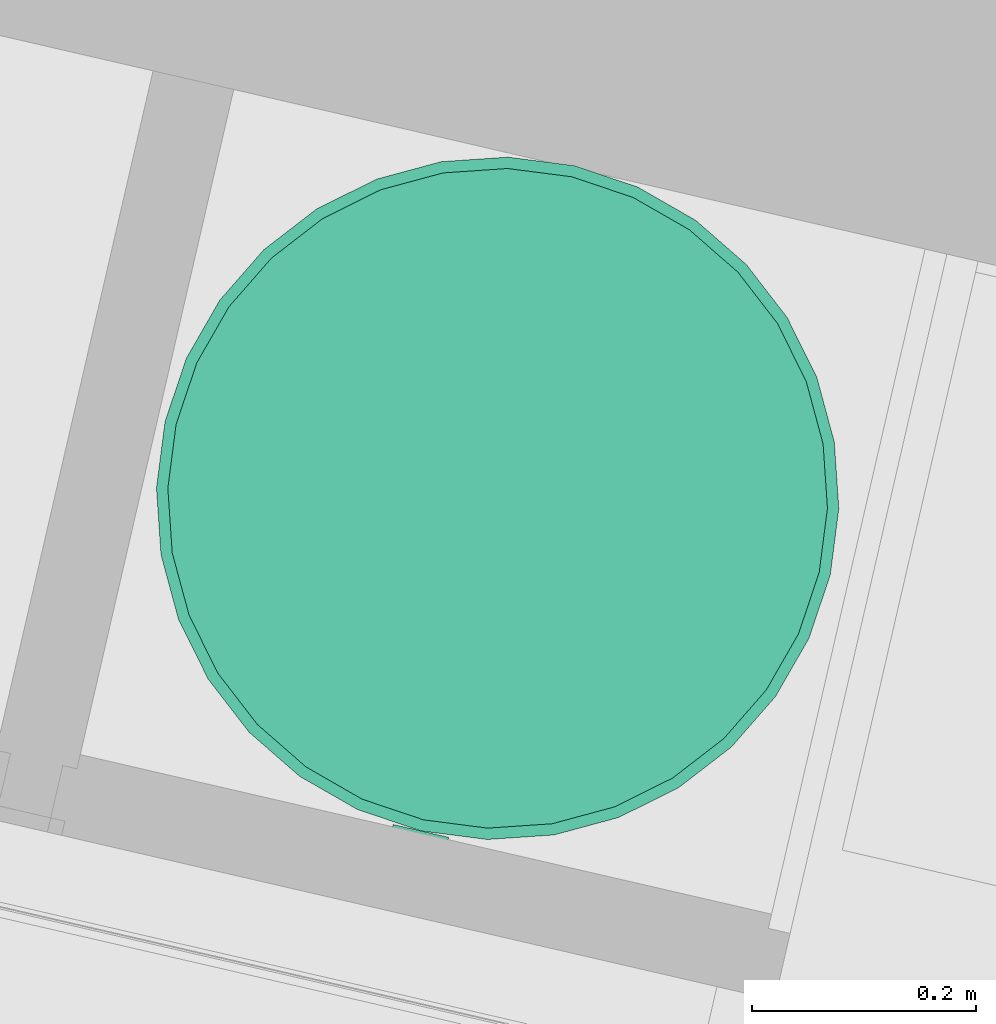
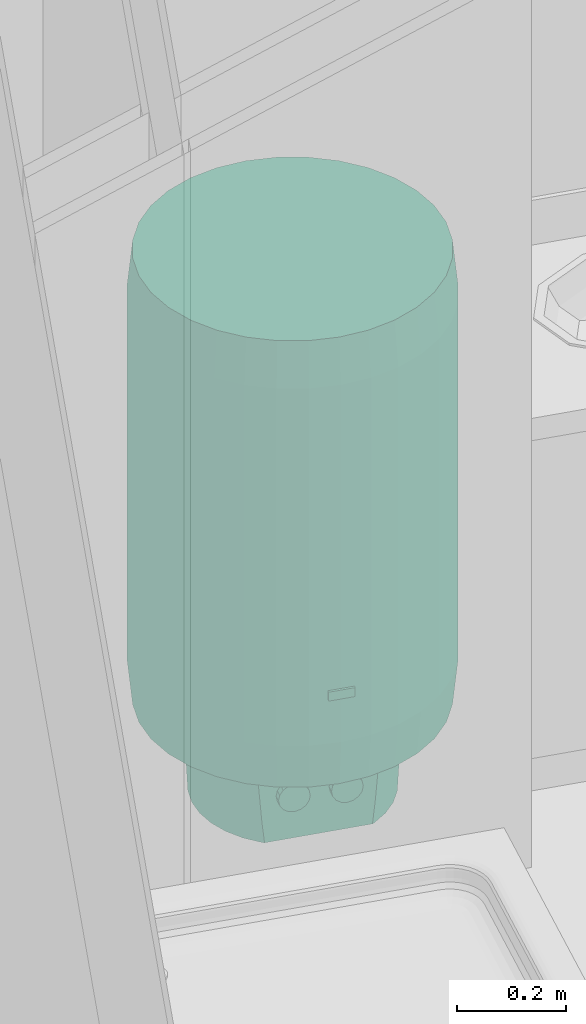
# One storey, part 80 of 90: 1 energy conversion device.
"""IFC2X3 building model written with IfcOpenShell, lengths in metres."""

import ifcopenshell
import ifcopenshell.guid

model = None  # the IFC model being written
_history = None  # IfcOwnerHistory: only IFC2X3 demands one
_inside = {}  # id of a spatial element -> (the spatial element, [elements in it])
_under = {}  # id of a project, library or spatial element -> (it, [spatial elements below it])
_declared = {}  # id of a project -> (the project, [libraries it declares])
_typed = {}  # id of a type object -> (the type object, [elements of that type])
_made_of = {}  # id of a material, layer set ... -> (it, [elements and type objects made of it])


def new_model(schema):
    """Start an empty IFC model of exactly this schema.

    Asked for "IFC4X3", IfcOpenShell would pick the latest addendum, in which some entities
    have other attributes; the version numbers below select the first issue.
    IFC2X3 requires an IfcOwnerHistory on every rooted entity: one is made here for all.
    """
    global model, _history
    if schema == "IFC4X3":
        model = ifcopenshell.file(schema_version=(4, 3, 0, 0))
    else:
        model = ifcopenshell.file(schema=schema)
    _inside.clear()
    _under.clear()
    _declared.clear()
    _typed.clear()
    _made_of.clear()
    _history = None
    if model.schema == "IFC2X3":
        org = make("IfcOrganization", Name="unknown")
        user = make(
            "IfcPersonAndOrganization",
            ThePerson=make("IfcPerson", FamilyName="unknown"),
            TheOrganization=org,
        )
        app = make(
            "IfcApplication",
            ApplicationDeveloper=org,
            Version="unknown",
            ApplicationFullName="unknown",
            ApplicationIdentifier="unknown",
        )
        _history = make(
            "IfcOwnerHistory",
            OwningUser=user,
            OwningApplication=app,
            ChangeAction="ADDED",
            CreationDate=0,
        )
    return model


def make(cls, **values):
    """One entity of the class cls with the attributes given. An attribute that is None is left unset."""
    return model.create_entity(
        cls, **{name: value for name, value in values.items() if value is not None}
    )


def entity(cls, *values):
    """Any entity or typed value of the class cls, its attributes in the order of the schema. None: left unset."""
    e = model.create_entity(cls)
    for i, value in enumerate(values):
        if value is not None:
            e[i] = value
    return e


def rooted(cls, **values):
    """An entity with a GlobalId (a new one), such as an element, a storey or a relation."""
    return make(cls, GlobalId=ifcopenshell.guid.new(), OwnerHistory=_history, **values)


def si_unit(unit_type, name, prefix=None):
    """IfcSIUnit, for example si_unit("LENGTHUNIT", "METRE", prefix="MILLI")."""
    return make("IfcSIUnit", UnitType=unit_type, Prefix=prefix, Name=name)


def converted_unit(unit_type, name, factor, base, dimensions=None, offset=None):
    """IfcConversionBasedUnit, such as the inch: factor (a typed value) times the base unit."""
    return make(
        "IfcConversionBasedUnit"
        if offset is None
        else "IfcConversionBasedUnitWithOffset",
        ConversionOffset=offset,
        Dimensions=None
        if dimensions is None
        else entity("IfcDimensionalExponents", *dimensions),
        UnitType=unit_type,
        Name=name,
        ConversionFactor=make(
            "IfcMeasureWithUnit", ValueComponent=factor, UnitComponent=base
        ),
    )


def derived_unit(unit_type, elements):
    """IfcDerivedUnit: a product of units, each with its exponent."""
    return make(
        "IfcDerivedUnit",
        Elements=[
            make("IfcDerivedUnitElement", Unit=unit, Exponent=power)
            for unit, power in elements
        ],
        UnitType=unit_type,
    )


def money_unit(currency):
    """IfcMonetaryUnit."""
    return make("IfcMonetaryUnit", Currency=currency)


def assignment(units):
    """IfcUnitAssignment: the units of a project."""
    return None if units is None else make("IfcUnitAssignment", Units=units)


def point(xyz):
    """IfcCartesianPoint."""
    return None if xyz is None else make("IfcCartesianPoint", Coordinates=xyz)


def direction(xyz):
    """IfcDirection."""
    return None if xyz is None else make("IfcDirection", DirectionRatios=xyz)


def frame(location, z_axis=None, x_axis=None):
    """IfcAxis2Placement3D, a coordinate frame: its origin and axes. An axis left out is left unset."""
    return make(
        "IfcAxis2Placement3D",
        Location=point(location),
        Axis=direction(z_axis),
        RefDirection=direction(x_axis),
    )


def origin_with_axes():
    """The frame at (0, 0, 0) with the z axis (0, 0, 1) and the x axis (1, 0, 0) written out."""
    return frame((0.0, 0.0, 0.0), z_axis=(0.0, 0.0, 1.0), x_axis=(1.0, 0.0, 0.0))


def place(relative_to, where):
    """IfcLocalPlacement: puts the frame where relative to a parent placement (None: the world)."""
    return make(
        "IfcLocalPlacement", PlacementRelTo=relative_to, RelativePlacement=where
    )


def context(
    kind, dimensions, precision=None, world=None, true_north=None, identifier=None
):
    """IfcGeometricRepresentationContext, for example the 3D "Model" context."""
    return make(
        "IfcGeometricRepresentationContext",
        ContextIdentifier=identifier,
        ContextType=kind,
        CoordinateSpaceDimension=dimensions,
        Precision=precision,
        WorldCoordinateSystem=world,
        TrueNorth=true_north,
    )


def subcontext(parent, identifier, kind, view, scale=None):
    """IfcGeometricRepresentationSubContext, for example "Body" below "Model"."""
    return make(
        "IfcGeometricRepresentationSubContext",
        ContextIdentifier=identifier,
        ContextType=kind,
        ParentContext=parent,
        TargetScale=scale,
        TargetView=view,
    )


def project(units=None, contexts=None):
    """IfcProject with its units and contexts."""
    return rooted(
        "IfcProject",
        Name="project",
        RepresentationContexts=contexts,
        UnitsInContext=assignment(units),
    )


def spatial(cls, under=None, at=None, **own):
    """A site, building, storey or space (cls), placed at a placement, below another one or the project."""
    s = rooted(cls, ObjectPlacement=at, **own)
    if under is not None:
        _under.setdefault(under.id(), (under, []))[1].append(s)
    return s


def faces_of(points, faces, orient=None, outer=None):
    """IfcFace entities. A face is a list of loops; a loop is a list of indices into points, from 0.

    orient and outer hold one flag for each loop. By default every Orientation is true, the
    first loop of a face is its IfcFaceOuterBound and the others are IfcFaceBound.
    """
    made = []
    for i, loops in enumerate(faces):
        bounds = []
        for j, loop in enumerate(loops):
            is_outer = j == 0 if outer is None else outer[i][j]
            bounds.append(
                make(
                    "IfcFaceOuterBound" if is_outer else "IfcFaceBound",
                    Bound=make("IfcPolyLoop", Polygon=[points[k] for k in loop]),
                    Orientation=True if orient is None else orient[i][j],
                )
            )
        made.append(make("IfcFace", Bounds=bounds))
    return made


def faceted_brep(points, faces, orient=None, outer=None, voids=None):
    """IfcFacetedBrep: a solid bounded by flat faces; with voids (closed shells), ...WithVoids."""
    shared = [point(p) for p in points]
    hull = make("IfcClosedShell", CfsFaces=faces_of(shared, faces, orient, outer))
    if voids is None:
        return make("IfcFacetedBrep", Outer=hull)
    return make(
        "IfcFacetedBrepWithVoids",
        Outer=hull,
        Voids=[
            make(cls, CfsFaces=faces_of(shared, fs, o, b)) for cls, fs, o, b in voids
        ],
    )


def shape(context_of_items, identifier, shape_type, items):
    """IfcShapeRepresentation: the items that make up one representation, for example the "Body"."""
    return make(
        "IfcShapeRepresentation",
        ContextOfItems=context_of_items,
        RepresentationIdentifier=identifier,
        RepresentationType=shape_type,
        Items=items,
    )


def source(mapping_origin, context_of_items, identifier, shape_type, items):
    """IfcRepresentationMap: a shape defined once, which mapped items show again and again."""
    return make(
        "IfcRepresentationMap",
        MappingOrigin=mapping_origin,
        MappedRepresentation=shape(context_of_items, identifier, shape_type, items),
    )


def transform(
    local_origin,
    x_axis=None,
    y_axis=None,
    z_axis=None,
    scale=None,
    scale2=None,
    scale3=None,
    uniform=True,
):
    """IfcCartesianTransformationOperator3D, or its non-uniform kind. x_axis, y_axis, z_axis: its Axis1, 2, 3."""
    if uniform:
        return make(
            "IfcCartesianTransformationOperator3D",
            Axis1=direction(x_axis),
            Axis2=direction(y_axis),
            LocalOrigin=point(local_origin),
            Scale=scale,
            Axis3=direction(z_axis),
        )
    return make(
        "IfcCartesianTransformationOperator3DnonUniform",
        Axis1=direction(x_axis),
        Axis2=direction(y_axis),
        LocalOrigin=point(local_origin),
        Scale=scale,
        Axis3=direction(z_axis),
        Scale2=scale2,
        Scale3=scale3,
    )


def mapped(mapping_source, mapping_target):
    """IfcMappedItem: shows the shape of a source again, moved by a transform."""
    return make(
        "IfcMappedItem", MappingSource=mapping_source, MappingTarget=mapping_target
    )


def made_of(thing, what):
    """Note that an element or type object is made of a material, layer set ...; save() writes the relation."""
    if what is not None:
        _made_of.setdefault(what.id(), (what, []))[1].append(thing)
    return thing


def type_object(cls, material=None, **own):
    """A type object (cls), such as IfcWallType, which elements share."""
    return made_of(rooted(cls, **own), material)


def element(
    cls,
    number,
    at=None,
    inside=None,
    cuts=None,
    type_object=None,
    material=None,
    context=None,
    identifier="Body",
    shape_type=None,
    held_by="IfcProductDefinitionShape",
    body=None,
    shapes=None,
    **own,
):
    """One element of the class cls, such as IfcWall. Its Tag is "e" and its number.

    at: its placement. inside: the storey or other place that contains it. cuts: it is an
    opening in that element (IfcRelVoidsElement). A single representation is given by context,
    identifier, shape_type and body (its items); several are given by shapes. held_by: the class
    of the entity that holds the representations. save() writes the other relations.
    """
    e = rooted(cls, Tag="e%d" % number, ObjectPlacement=at, **own)
    if body is not None:
        shapes = [shape(context, identifier, shape_type, body)]
    if shapes is not None:
        e.Representation = make(held_by, Representations=shapes)
    if inside is not None:
        _inside.setdefault(inside.id(), (inside, []))[1].append(e)
    if cuts is not None:
        rooted(
            "IfcRelVoidsElement", RelatingBuildingElement=cuts, RelatedOpeningElement=e
        )
    if type_object is not None:
        _typed.setdefault(type_object.id(), (type_object, []))[1].append(e)
    return made_of(e, material)


def aggregate(whole, parts):
    """IfcRelAggregates: a whole, such as a stair, and the parts it consists of."""
    return rooted("IfcRelAggregates", RelatingObject=whole, RelatedObjects=parts)


def save(model, path):
    """Write the relations noted so far, then the file.

    IfcRelAggregates (storeys below a building ...), IfcRelContainedInSpatialStructure (elements
    in a storey), IfcRelDefinesByType, IfcRelAssociatesMaterial and IfcRelDeclares: one each for
    every whole, place, type object, material and project.
    """
    for whole, parts in _under.values():
        aggregate(whole, parts)
    for where, things in _inside.values():
        rooted(
            "IfcRelContainedInSpatialStructure",
            RelatedElements=things,
            RelatingStructure=where,
        )
    for kind, things in _typed.values():
        rooted("IfcRelDefinesByType", RelatedObjects=things, RelatingType=kind)
    for what, things in _made_of.values():
        rooted("IfcRelAssociatesMaterial", RelatedObjects=things, RelatingMaterial=what)
    for by, libraries in _declared.values():
        rooted("IfcRelDeclares", RelatingContext=by, RelatedDefinitions=libraries)
    model.write(path)


model = new_model("IFC2X3")

# Units and contexts
model_context = context("Model", 3, precision=1e-05, world=origin_with_axes(), true_north=direction((0.0, 1.0)))
body_context = subcontext(model_context, "Body", "Model", "MODEL_VIEW")
ifc_project = project(units=[si_unit("LENGTHUNIT", "METRE"), si_unit("AREAUNIT", "SQUARE_METRE"), si_unit("VOLUMEUNIT", "CUBIC_METRE"), converted_unit("PLANEANGLEUNIT", "DEGREE", entity("IfcPlaneAngleMeasure", 0.0174532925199), si_unit("PLANEANGLEUNIT", "RADIAN"), dimensions=[0, 0, 0, 0, 0, 0, 0]), si_unit("SOLIDANGLEUNIT", "STERADIAN"), money_unit("EUR"), converted_unit("TIMEUNIT", "Year", entity("IfcTimeMeasure", 31556926.0), si_unit("TIMEUNIT", "SECOND"), dimensions=[0, 0, 1, 0, 0, 0, 0]), si_unit("MASSUNIT", "GRAM", prefix="KILO"), si_unit("THERMODYNAMICTEMPERATUREUNIT", "DEGREE_CELSIUS"), si_unit("LUMINOUSINTENSITYUNIT", "LUMEN"), si_unit("ENERGYUNIT", "JOULE", prefix="MEGA"), derived_unit("THERMALCONDUCTANCEUNIT", [(si_unit("POWERUNIT", "WATT"), 1), (si_unit("LENGTHUNIT", "METRE"), -1), (si_unit("THERMODYNAMICTEMPERATUREUNIT", "KELVIN"), -1)]), derived_unit("SPECIFICHEATCAPACITYUNIT", [(si_unit("ENERGYUNIT", "JOULE"), 1), (si_unit("MASSUNIT", "GRAM", prefix="KILO"), -1), (si_unit("THERMODYNAMICTEMPERATUREUNIT", "KELVIN"), -1)]), derived_unit("MASSDENSITYUNIT", [(si_unit("MASSUNIT", "GRAM", prefix="KILO"), 1), (si_unit("VOLUMEUNIT", "CUBIC_METRE"), -1)])], contexts=[model_context])

# Site, building, storey
site_placement = place(None, origin_with_axes())
site = spatial("IfcSite", under=ifc_project, at=site_placement, Name="Site", CompositionType="ELEMENT")
building_placement = place(site_placement, origin_with_axes())
building = spatial("IfcBuilding", under=site, at=building_placement, Name="Bâtiment", CompositionType="ELEMENT")
storey_placement = place(building_placement, frame((0.0, 0.0, 2.72), z_axis=(0.0, 0.0, 1.0), x_axis=(1.0, 0.0, 0.0)))
storey = spatial("IfcBuildingStorey", under=building, at=storey_placement, Name="R+1", CompositionType="ELEMENT", Elevation=2.72)

# Energy conversion device
heat_exchanger_type = type_object("IfcHeatExchangerType", Name="Chauffe-eau électrique 23", PredefinedType="SHELLANDTUBE")
shared_shape = source(origin_with_axes(), body_context, "Body", "Brep", [
    faceted_brep([(-0.0254166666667, -0.310083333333, 0.4), (-0.0254166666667, -0.305, 0.4), (0.0254166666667, -0.305, 0.4), (0.0254166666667, -0.310083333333, 0.4), (-0.0254166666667, -0.310083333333, 0.42), (-0.0254166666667, -0.305, 0.42), (0.0254166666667, -0.305, 0.42), (0.0254166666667, -0.310083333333, 0.42)], [[[0, 1, 2, 3]], [[0, 4, 5, 1]], [[1, 5, 6, 2]], [[2, 6, 7, 3]], [[3, 7, 4, 0]], [[7, 6, 5, 4]]]),
    faceted_brep([(0.0226550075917, -0.162666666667, 0.0883281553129), (0.0203333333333, -0.162666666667, 0.1), (0.0226550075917, -0.162666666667, 0.111671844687), (0.0292665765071, -0.162666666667, 0.121566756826), (0.0391614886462, -0.162666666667, 0.128178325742), (0.0508333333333, -0.162666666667, 0.1305), (0.0625051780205, -0.162666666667, 0.128178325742), (0.0724000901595, -0.162666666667, 0.121566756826), (0.0790116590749, -0.162666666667, 0.111671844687), (0.0813333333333, -0.162666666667, 0.1), (0.0790116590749, -0.162666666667, 0.0883281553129), (0.0724000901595, -0.162666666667, 0.0784332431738), (0.0625051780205, -0.162666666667, 0.0718216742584), (0.0508333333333, -0.162666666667, 0.0695), (0.0391614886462, -0.162666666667, 0.0718216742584), (0.0292665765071, -0.162666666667, 0.0784332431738), (0.0226550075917, -0.177916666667, 0.0883281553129), (0.0203333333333, -0.177916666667, 0.1), (0.0226550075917, -0.177916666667, 0.111671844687), (0.0292665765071, -0.177916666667, 0.121566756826), (0.0391614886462, -0.177916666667, 0.128178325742), (0.0508333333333, -0.177916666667, 0.1305), (0.0625051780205, -0.177916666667, 0.128178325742), (0.0724000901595, -0.177916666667, 0.121566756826), (0.0790116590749, -0.177916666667, 0.111671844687), (0.0813333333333, -0.177916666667, 0.1), (0.0790116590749, -0.177916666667, 0.0883281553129), (0.0724000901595, -0.177916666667, 0.0784332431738), (0.0625051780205, -0.177916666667, 0.0718216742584), (0.0508333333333, -0.177916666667, 0.0695), (0.0391614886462, -0.177916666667, 0.0718216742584), (0.0292665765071, -0.177916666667, 0.0784332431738)], [[[0, 1, 2, 3, 4, 5, 6, 7, 8, 9, 10, 11, 12, 13, 14, 15]], [[0, 16, 17, 1]], [[1, 17, 18, 2]], [[2, 18, 19, 3]], [[3, 19, 20, 4]], [[4, 20, 21, 5]], [[5, 21, 22, 6]], [[6, 22, 23, 7]], [[7, 23, 24, 8]], [[8, 24, 25, 9]], [[9, 25, 26, 10]], [[10, 26, 27, 11]], [[11, 27, 28, 12]], [[12, 28, 29, 13]], [[13, 29, 30, 14]], [[14, 30, 31, 15]], [[15, 31, 16, 0]], [[16, 31, 30, 29, 28, 27, 26, 25, 24, 23, 22, 21, 20, 19, 18, 17]]]),
    faceted_brep([(-0.0790116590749, -0.162666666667, 0.0883281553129), (-0.0813333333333, -0.162666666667, 0.1), (-0.0790116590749, -0.162666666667, 0.111671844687), (-0.0724000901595, -0.162666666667, 0.121566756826), (-0.0625051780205, -0.162666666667, 0.128178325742), (-0.0508333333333, -0.162666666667, 0.1305), (-0.0391614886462, -0.162666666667, 0.128178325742), (-0.0292665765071, -0.162666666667, 0.121566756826), (-0.0226550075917, -0.162666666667, 0.111671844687), (-0.0203333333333, -0.162666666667, 0.1), (-0.0226550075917, -0.162666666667, 0.0883281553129), (-0.0292665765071, -0.162666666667, 0.0784332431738), (-0.0391614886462, -0.162666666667, 0.0718216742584), (-0.0508333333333, -0.162666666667, 0.0695), (-0.0625051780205, -0.162666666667, 0.0718216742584), (-0.0724000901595, -0.162666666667, 0.0784332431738), (-0.0790116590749, -0.177916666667, 0.0883281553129), (-0.0813333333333, -0.177916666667, 0.1), (-0.0790116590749, -0.177916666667, 0.111671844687), (-0.0724000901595, -0.177916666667, 0.121566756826), (-0.0625051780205, -0.177916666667, 0.128178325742), (-0.0508333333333, -0.177916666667, 0.1305), (-0.0391614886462, -0.177916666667, 0.128178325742), (-0.0292665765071, -0.177916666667, 0.121566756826), (-0.0226550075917, -0.177916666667, 0.111671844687), (-0.0203333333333, -0.177916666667, 0.1), (-0.0226550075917, -0.177916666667, 0.0883281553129), (-0.0292665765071, -0.177916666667, 0.0784332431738), (-0.0391614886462, -0.177916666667, 0.0718216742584), (-0.0508333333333, -0.177916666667, 0.0695), (-0.0625051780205, -0.177916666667, 0.0718216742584), (-0.0724000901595, -0.177916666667, 0.0784332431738)], [[[0, 1, 2, 3, 4, 5, 6, 7, 8, 9, 10, 11, 12, 13, 14, 15]], [[0, 16, 17, 1]], [[1, 17, 18, 2]], [[2, 18, 19, 3]], [[3, 19, 20, 4]], [[4, 20, 21, 5]], [[5, 21, 22, 6]], [[6, 22, 23, 7]], [[7, 23, 24, 8]], [[8, 24, 25, 9]], [[9, 25, 26, 10]], [[10, 26, 27, 11]], [[11, 27, 28, 12]], [[12, 28, 29, 13]], [[13, 29, 30, 14]], [[14, 30, 31, 15]], [[15, 31, 16, 0]], [[16, 31, 30, 29, 28, 27, 26, 25, 24, 23, 22, 21, 20, 19, 18, 17]]]),
    faceted_brep([(-0.189455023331, -0.0376849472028, 0.0), (-0.199426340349, -0.0396683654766, 0.2), (-0.203333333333, 0.0, 0.2), (-0.193166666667, 0.0, 0.0), (-0.178462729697, -0.0739216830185, 0.0), (-0.187855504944, -0.0778122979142, 0.2), (-0.169065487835, -0.112965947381, 0.2), (-0.143778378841, -0.143778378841, 0.2), (-0.120762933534, -0.162666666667, 0.2), (0.120762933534, -0.162666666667, 0.2), (0.143778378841, -0.143778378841, 0.2), (0.169065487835, -0.112965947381, 0.2), (0.187855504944, -0.0778122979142, 0.2), (0.199426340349, -0.0396683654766, 0.2), (0.203333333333, 0.0, 0.2), (0.199426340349, 0.0396683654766, 0.2), (0.187855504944, 0.0778122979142, 0.2), (0.169065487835, 0.112965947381, 0.2), (0.143778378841, 0.143778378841, 0.2), (0.112965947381, 0.169065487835, 0.2), (0.0778122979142, 0.187855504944, 0.2), (0.0396683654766, 0.199426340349, 0.2), (0.0, 0.203333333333, 0.2), (-0.0396683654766, 0.199426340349, 0.2), (-0.0778122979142, 0.187855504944, 0.2), (-0.112965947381, 0.169065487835, 0.2), (-0.143778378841, 0.143778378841, 0.2), (-0.169065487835, 0.112965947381, 0.2), (-0.187855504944, 0.0778122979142, 0.2), (-0.199426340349, 0.0396683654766, 0.2), (-0.189455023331, 0.0376849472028, 0.0), (-0.178462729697, 0.0739216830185, 0.0), (-0.160612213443, 0.107317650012, 0.0), (-0.136589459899, 0.136589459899, 0.0), (-0.107317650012, 0.160612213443, 0.0), (-0.0739216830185, 0.178462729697, 0.0), (-0.0376849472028, 0.189455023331, 0.0), (0.0, 0.193166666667, 0.0), (0.0376849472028, 0.189455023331, 0.0), (0.0739216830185, 0.178462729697, 0.0), (0.107317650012, 0.160612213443, 0.0), (0.136589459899, 0.136589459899, 0.0), (0.160612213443, 0.107317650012, 0.0), (0.178462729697, 0.0739216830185, 0.0), (0.189455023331, 0.0376849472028, 0.0), (0.193166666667, 0.0, 0.0), (0.189455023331, -0.0376849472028, 0.0), (0.178462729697, -0.0739216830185, 0.0), (0.160612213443, -0.107317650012, 0.0), (0.136589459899, -0.136589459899, 0.0), (0.107317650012, -0.160612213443, 0.0), (0.103474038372, -0.162666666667, 0.0), (-0.103474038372, -0.162666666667, 0.0), (-0.107317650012, -0.160612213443, 0.0), (-0.136589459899, -0.136589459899, 0.0), (-0.160612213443, -0.107317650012, 0.0), (-0.108690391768, -0.162666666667, 0.0486072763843), (0.108690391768, -0.162666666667, 0.0486072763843)], [[[0, 1, 2, 3]], [[4, 5, 1, 0]], [[1, 5, 6, 7, 8, 9, 10, 11, 12, 13, 14, 15, 16, 17, 18, 19, 20, 21, 22, 23, 24, 25, 26, 27, 28, 29, 2]], [[3, 2, 29, 30]], [[0, 3, 30, 31, 32, 33, 34, 35, 36, 37, 38, 39, 40, 41, 42, 43, 44, 45, 46, 47, 48, 49, 50, 51, 52, 53, 54, 55, 4]], [[55, 6, 5, 4]], [[54, 7, 6, 55]], [[53, 56, 8, 7, 54]], [[51, 57, 9, 8, 56, 52]], [[49, 10, 9, 57, 50]], [[48, 11, 10, 49]], [[47, 12, 11, 48]], [[46, 13, 12, 47]], [[45, 14, 13, 46]], [[44, 15, 14, 45]], [[43, 16, 15, 44]], [[42, 17, 16, 43]], [[41, 18, 17, 42]], [[40, 19, 18, 41]], [[39, 20, 19, 40]], [[38, 21, 20, 39]], [[37, 22, 21, 38]], [[36, 23, 22, 37]], [[35, 24, 23, 36]], [[34, 25, 24, 35]], [[33, 26, 25, 34]], [[32, 27, 26, 33]], [[31, 28, 27, 32]], [[30, 29, 28, 31]], [[50, 57, 51]], [[52, 56, 53]]]),
    faceted_brep([(-0.289168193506, -0.0575191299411, 0.2), (-0.299139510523, -0.0595025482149, 0.3), (-0.305, 0.0, 0.3), (-0.294833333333, 0.0, 0.2), (-0.272390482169, -0.112827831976, 0.2), (-0.281783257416, -0.116718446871, 0.3), (-0.253598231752, -0.169448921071, 0.3), (-0.215667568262, -0.215667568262, 0.3), (-0.169448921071, -0.253598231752, 0.3), (-0.116718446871, -0.281783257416, 0.3), (-0.0595025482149, -0.299139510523, 0.3), (0.0, -0.305, 0.3), (0.0595025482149, -0.299139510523, 0.3), (0.116718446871, -0.281783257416, 0.3), (0.169448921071, -0.253598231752, 0.3), (0.215667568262, -0.215667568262, 0.3), (0.253598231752, -0.169448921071, 0.3), (0.281783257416, -0.116718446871, 0.3), (0.299139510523, -0.0595025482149, 0.3), (0.305, 0.0, 0.3), (0.299139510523, 0.0595025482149, 0.3), (0.281783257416, 0.116718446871, 0.3), (0.253598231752, 0.169448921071, 0.3), (0.215667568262, 0.215667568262, 0.3), (0.169448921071, 0.253598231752, 0.3), (0.116718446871, 0.281783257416, 0.3), (0.0595025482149, 0.299139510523, 0.3), (0.0, 0.305, 0.3), (-0.0595025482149, 0.299139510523, 0.3), (-0.116718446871, 0.281783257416, 0.3), (-0.169448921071, 0.253598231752, 0.3), (-0.215667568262, 0.215667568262, 0.3), (-0.253598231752, 0.169448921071, 0.3), (-0.281783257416, 0.116718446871, 0.3), (-0.299139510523, 0.0595025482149, 0.3), (-0.289168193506, 0.0575191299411, 0.2), (-0.272390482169, 0.112827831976, 0.2), (-0.245144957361, 0.163800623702, 0.2), (-0.20847864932, 0.20847864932, 0.2), (-0.163800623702, 0.245144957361, 0.2), (-0.112827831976, 0.272390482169, 0.2), (-0.0575191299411, 0.289168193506, 0.2), (0.0, 0.294833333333, 0.2), (0.0575191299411, 0.289168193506, 0.2), (0.112827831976, 0.272390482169, 0.2), (0.163800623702, 0.245144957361, 0.2), (0.20847864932, 0.20847864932, 0.2), (0.245144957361, 0.163800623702, 0.2), (0.272390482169, 0.112827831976, 0.2), (0.289168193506, 0.0575191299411, 0.2), (0.294833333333, 0.0, 0.2), (0.289168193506, -0.0575191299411, 0.2), (0.272390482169, -0.112827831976, 0.2), (0.245144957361, -0.163800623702, 0.2), (0.20847864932, -0.20847864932, 0.2), (0.163800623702, -0.245144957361, 0.2), (0.112827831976, -0.272390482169, 0.2), (0.0575191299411, -0.289168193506, 0.2), (0.0, -0.294833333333, 0.2), (-0.0575191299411, -0.289168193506, 0.2), (-0.112827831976, -0.272390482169, 0.2), (-0.163800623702, -0.245144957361, 0.2), (-0.20847864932, -0.20847864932, 0.2), (-0.245144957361, -0.163800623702, 0.2)], [[[0, 1, 2, 3]], [[4, 5, 1, 0]], [[1, 5, 6, 7, 8, 9, 10, 11, 12, 13, 14, 15, 16, 17, 18, 19, 20, 21, 22, 23, 24, 25, 26, 27, 28, 29, 30, 31, 32, 33, 34, 2]], [[3, 2, 34, 35]], [[0, 3, 35, 36, 37, 38, 39, 40, 41, 42, 43, 44, 45, 46, 47, 48, 49, 50, 51, 52, 53, 54, 55, 56, 57, 58, 59, 60, 61, 62, 63, 4]], [[63, 6, 5, 4]], [[62, 7, 6, 63]], [[61, 8, 7, 62]], [[60, 9, 8, 61]], [[59, 10, 9, 60]], [[58, 11, 10, 59]], [[57, 12, 11, 58]], [[56, 13, 12, 57]], [[55, 14, 13, 56]], [[54, 15, 14, 55]], [[53, 16, 15, 54]], [[52, 17, 16, 53]], [[51, 18, 17, 52]], [[50, 19, 18, 51]], [[49, 20, 19, 50]], [[48, 21, 20, 49]], [[47, 22, 21, 48]], [[46, 23, 22, 47]], [[45, 24, 23, 46]], [[44, 25, 24, 45]], [[43, 26, 25, 44]], [[42, 27, 26, 43]], [[41, 28, 27, 42]], [[40, 29, 28, 41]], [[39, 30, 29, 40]], [[38, 31, 30, 39]], [[37, 32, 31, 38]], [[36, 33, 32, 37]], [[35, 34, 33, 36]]]),
    faceted_brep([(-0.299139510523, -0.0595025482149, 0.3), (-0.305, 0.0, 0.3), (-0.299139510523, 0.0595025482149, 0.3), (-0.281783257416, 0.116718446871, 0.3), (-0.253598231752, 0.169448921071, 0.3), (-0.215667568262, 0.215667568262, 0.3), (-0.169448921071, 0.253598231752, 0.3), (-0.116718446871, 0.281783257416, 0.3), (-0.0595025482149, 0.299139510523, 0.3), (0.0, 0.305, 0.3), (0.0595025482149, 0.299139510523, 0.3), (0.116718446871, 0.281783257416, 0.3), (0.169448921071, 0.253598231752, 0.3), (0.215667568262, 0.215667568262, 0.3), (0.253598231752, 0.169448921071, 0.3), (0.281783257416, 0.116718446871, 0.3), (0.299139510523, 0.0595025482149, 0.3), (0.305, 0.0, 0.3), (0.299139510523, -0.0595025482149, 0.3), (0.281783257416, -0.116718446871, 0.3), (0.253598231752, -0.169448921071, 0.3), (0.215667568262, -0.215667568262, 0.3), (0.169448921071, -0.253598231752, 0.3), (0.116718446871, -0.281783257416, 0.3), (0.0595025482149, -0.299139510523, 0.3), (0.0, -0.305, 0.3), (-0.0595025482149, -0.299139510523, 0.3), (-0.116718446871, -0.281783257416, 0.3), (-0.169448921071, -0.253598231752, 0.3), (-0.215667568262, -0.215667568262, 0.3), (-0.253598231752, -0.169448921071, 0.3), (-0.281783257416, -0.116718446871, 0.3), (-0.299139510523, -0.0595025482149, 1.1), (-0.305, 0.0, 1.1), (-0.299139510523, 0.0595025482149, 1.1), (-0.281783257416, 0.116718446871, 1.1), (-0.253598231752, 0.169448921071, 1.1), (-0.215667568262, 0.215667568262, 1.1), (-0.169448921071, 0.253598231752, 1.1), (-0.116718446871, 0.281783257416, 1.1), (-0.0595025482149, 0.299139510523, 1.1), (0.0, 0.305, 1.1), (0.0595025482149, 0.299139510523, 1.1), (0.116718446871, 0.281783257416, 1.1), (0.169448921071, 0.253598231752, 1.1), (0.215667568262, 0.215667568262, 1.1), (0.253598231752, 0.169448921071, 1.1), (0.281783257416, 0.116718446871, 1.1), (0.299139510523, 0.0595025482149, 1.1), (0.305, 0.0, 1.1), (0.299139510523, -0.0595025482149, 1.1), (0.281783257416, -0.116718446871, 1.1), (0.253598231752, -0.169448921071, 1.1), (0.215667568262, -0.215667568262, 1.1), (0.169448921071, -0.253598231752, 1.1), (0.116718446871, -0.281783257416, 1.1), (0.0595025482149, -0.299139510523, 1.1), (0.0, -0.305, 1.1), (-0.0595025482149, -0.299139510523, 1.1), (-0.116718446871, -0.281783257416, 1.1), (-0.169448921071, -0.253598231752, 1.1), (-0.215667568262, -0.215667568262, 1.1), (-0.253598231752, -0.169448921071, 1.1), (-0.281783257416, -0.116718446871, 1.1)], [[[0, 1, 2, 3, 4, 5, 6, 7, 8, 9, 10, 11, 12, 13, 14, 15, 16, 17, 18, 19, 20, 21, 22, 23, 24, 25, 26, 27, 28, 29, 30, 31]], [[0, 32, 33, 1]], [[1, 33, 34, 2]], [[2, 34, 35, 3]], [[3, 35, 36, 4]], [[4, 36, 37, 5]], [[5, 37, 38, 6]], [[6, 38, 39, 7]], [[7, 39, 40, 8]], [[8, 40, 41, 9]], [[9, 41, 42, 10]], [[10, 42, 43, 11]], [[11, 43, 44, 12]], [[12, 44, 45, 13]], [[13, 45, 46, 14]], [[14, 46, 47, 15]], [[15, 47, 48, 16]], [[16, 48, 49, 17]], [[17, 49, 50, 18]], [[18, 50, 51, 19]], [[19, 51, 52, 20]], [[20, 52, 53, 21]], [[21, 53, 54, 22]], [[22, 54, 55, 23]], [[23, 55, 56, 24]], [[24, 56, 57, 25]], [[25, 57, 58, 26]], [[26, 58, 59, 27]], [[27, 59, 60, 28]], [[28, 60, 61, 29]], [[29, 61, 62, 30]], [[30, 62, 63, 31]], [[31, 63, 32, 0]], [[32, 63, 62, 61, 60, 59, 58, 57, 56, 55, 54, 53, 52, 51, 50, 49, 48, 47, 46, 45, 44, 43, 42, 41, 40, 39, 38, 37, 36, 35, 34, 33]]]),
    faceted_brep([(-0.299139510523, -0.0595025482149, 1.1), (-0.289168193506, -0.0575191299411, 1.2), (-0.294833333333, 0.0, 1.2), (-0.305, 0.0, 1.1), (-0.281783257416, -0.116718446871, 1.1), (-0.272390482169, -0.112827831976, 1.2), (-0.245144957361, -0.163800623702, 1.2), (-0.20847864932, -0.20847864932, 1.2), (-0.163800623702, -0.245144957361, 1.2), (-0.112827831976, -0.272390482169, 1.2), (-0.0575191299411, -0.289168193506, 1.2), (0.0, -0.294833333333, 1.2), (0.0575191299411, -0.289168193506, 1.2), (0.112827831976, -0.272390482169, 1.2), (0.163800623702, -0.245144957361, 1.2), (0.20847864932, -0.20847864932, 1.2), (0.245144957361, -0.163800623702, 1.2), (0.272390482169, -0.112827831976, 1.2), (0.289168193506, -0.0575191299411, 1.2), (0.294833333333, 0.0, 1.2), (0.289168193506, 0.0575191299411, 1.2), (0.272390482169, 0.112827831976, 1.2), (0.245144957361, 0.163800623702, 1.2), (0.20847864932, 0.20847864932, 1.2), (0.163800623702, 0.245144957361, 1.2), (0.112827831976, 0.272390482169, 1.2), (0.0575191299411, 0.289168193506, 1.2), (0.0, 0.294833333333, 1.2), (-0.0575191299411, 0.289168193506, 1.2), (-0.112827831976, 0.272390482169, 1.2), (-0.163800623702, 0.245144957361, 1.2), (-0.20847864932, 0.20847864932, 1.2), (-0.245144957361, 0.163800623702, 1.2), (-0.272390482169, 0.112827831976, 1.2), (-0.289168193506, 0.0575191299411, 1.2), (-0.299139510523, 0.0595025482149, 1.1), (-0.281783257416, 0.116718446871, 1.1), (-0.253598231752, 0.169448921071, 1.1), (-0.215667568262, 0.215667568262, 1.1), (-0.169448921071, 0.253598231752, 1.1), (-0.116718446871, 0.281783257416, 1.1), (-0.0595025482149, 0.299139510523, 1.1), (0.0, 0.305, 1.1), (0.0595025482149, 0.299139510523, 1.1), (0.116718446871, 0.281783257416, 1.1), (0.169448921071, 0.253598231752, 1.1), (0.215667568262, 0.215667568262, 1.1), (0.253598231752, 0.169448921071, 1.1), (0.281783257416, 0.116718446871, 1.1), (0.299139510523, 0.0595025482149, 1.1), (0.305, 0.0, 1.1), (0.299139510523, -0.0595025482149, 1.1), (0.281783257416, -0.116718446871, 1.1), (0.253598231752, -0.169448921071, 1.1), (0.215667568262, -0.215667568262, 1.1), (0.169448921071, -0.253598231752, 1.1), (0.116718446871, -0.281783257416, 1.1), (0.0595025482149, -0.299139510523, 1.1), (0.0, -0.305, 1.1), (-0.0595025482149, -0.299139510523, 1.1), (-0.116718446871, -0.281783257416, 1.1), (-0.169448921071, -0.253598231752, 1.1), (-0.215667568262, -0.215667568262, 1.1), (-0.253598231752, -0.169448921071, 1.1)], [[[0, 1, 2, 3]], [[4, 5, 1, 0]], [[1, 5, 6, 7, 8, 9, 10, 11, 12, 13, 14, 15, 16, 17, 18, 19, 20, 21, 22, 23, 24, 25, 26, 27, 28, 29, 30, 31, 32, 33, 34, 2]], [[3, 2, 34, 35]], [[0, 3, 35, 36, 37, 38, 39, 40, 41, 42, 43, 44, 45, 46, 47, 48, 49, 50, 51, 52, 53, 54, 55, 56, 57, 58, 59, 60, 61, 62, 63, 4]], [[63, 6, 5, 4]], [[62, 7, 6, 63]], [[61, 8, 7, 62]], [[60, 9, 8, 61]], [[59, 10, 9, 60]], [[58, 11, 10, 59]], [[57, 12, 11, 58]], [[56, 13, 12, 57]], [[55, 14, 13, 56]], [[54, 15, 14, 55]], [[53, 16, 15, 54]], [[52, 17, 16, 53]], [[51, 18, 17, 52]], [[50, 19, 18, 51]], [[49, 20, 19, 50]], [[48, 21, 20, 49]], [[47, 22, 21, 48]], [[46, 23, 22, 47]], [[45, 24, 23, 46]], [[44, 25, 24, 45]], [[43, 26, 25, 44]], [[42, 27, 26, 43]], [[41, 28, 27, 42]], [[40, 29, 28, 41]], [[39, 30, 29, 40]], [[38, 31, 30, 39]], [[37, 32, 31, 38]], [[36, 33, 32, 37]], [[35, 34, 33, 36]]]),
])
energy_conversion_device_placement = place(storey_placement, frame((-10.1015578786, 11.5785123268, 0.0), z_axis=(0.0, 0.0, 1.0), x_axis=(0.974387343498, -0.224876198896, 0.0)))
element("IfcEnergyConversionDevice", 1, at=energy_conversion_device_placement, inside=storey, type_object=heat_exchanger_type, Name="MOB-002", context=body_context, shape_type="MappedRepresentation", body=[
    mapped(shared_shape, transform((0.0, 0.0, 0.0))),
])

save(model, "model.ifc")
